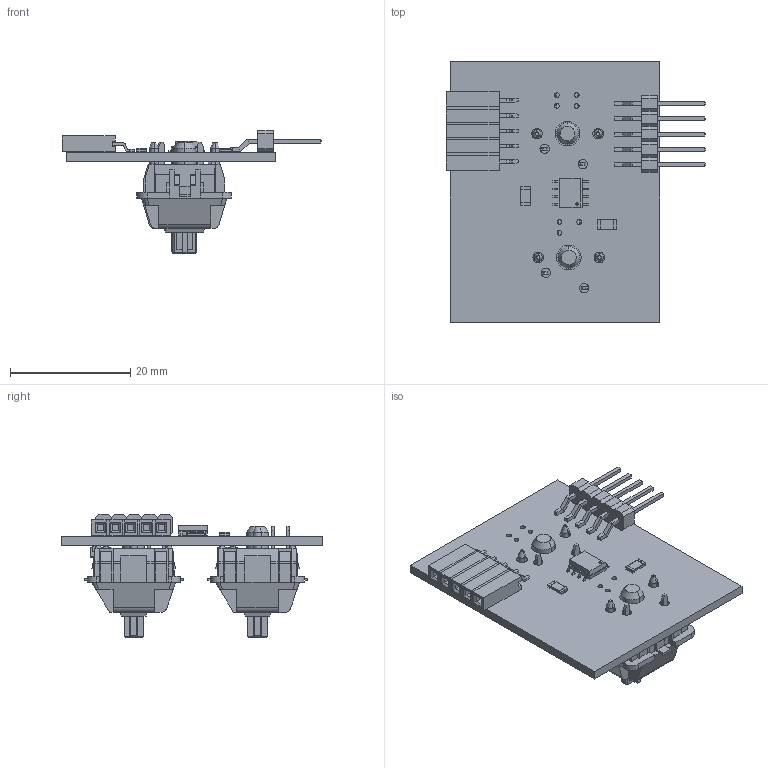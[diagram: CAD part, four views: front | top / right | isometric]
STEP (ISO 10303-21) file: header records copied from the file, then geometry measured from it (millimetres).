
FILE_DESCRIPTION(('KiCad electronic assembly'),'2;1');
FILE_NAME('Networkcom.step','2025-04-07T04:35:31',('Pcbnew'),('Kicad'), 'Open CASCADE STEP processor 7.8','KiCad to STEP converter','Unknown' );
FILE_SCHEMA(('AUTOMOTIVE_DESIGN { 1 0 10303 214 1 1 1 1 }'));
Length unit declared in the file: millimetre
Products named in the file (20): Networkcom 1; Resistor-1206; Ceramic; Contacts; Contacts (Mirror #1); Overcoat; Header_SMD_01x05_P2.54mm_Horizontal_Male; Networkcom 1.3.1; Networkcom 1.3.2; PinSocket-01x05_P2.54mm_Horizontal_SMD; Networkcom 1.4.1; Networkcom 1.4.2; SOIC-8_3.9x4.9mm_P1.27mm; Leads; Leads_Right; Package; Dot; LED_WS2812B-Mini_PLCC4_3.5x3.5mm; COM-13834; Networkcom_PCB
Assembly tree (25 placements, depth 4):
  Networkcom 1
    Resistor-1206  x2
      Ceramic
      Contacts
      Contacts (Mirror #1)
      Overcoat
    Header_SMD_01x05_P2.54mm_Horizontal_Male
      Networkcom 1.3.1
      Networkcom 1.3.2
    PinSocket-01x05_P2.54mm_Horizontal_SMD
      Networkcom 1.4.1
      Networkcom 1.4.2
    SOIC-8_3.9x4.9mm_P1.27mm
      Leads
        Leads_Right  x4
      Package
      Dot
    LED_WS2812B-Mini_PLCC4_3.5x3.5mm  x2
    COM-13834  x2
    Networkcom_PCB
Bounding box: 43.13 x 43.27 x 20.48 mm (x, y, z)
Volume: 5919.5 mm3; surface area: 8302.2 mm2
Topology: 47 solids, 47 shells, 1340 faces, 3468 edges, 2252 vertices
Faces by surface type: plane 1093, cylinder 207, revolution 26, cone 14
Full cylindrical faces by diameter (mm): 0.4 x2, 0.8 x7, 1.549 x4, 1.753 x4, 2.307 x2, 4.089 x2
Entity records: 26517 total; most frequent: CARTESIAN_POINT 4586, ORIENTED_EDGE 4312, DIRECTION 4142, EDGE_CURVE 2156, LINE 1876, VECTOR 1876, VERTEX_POINT 1384, AXIS2_PLACEMENT_3D 1124
